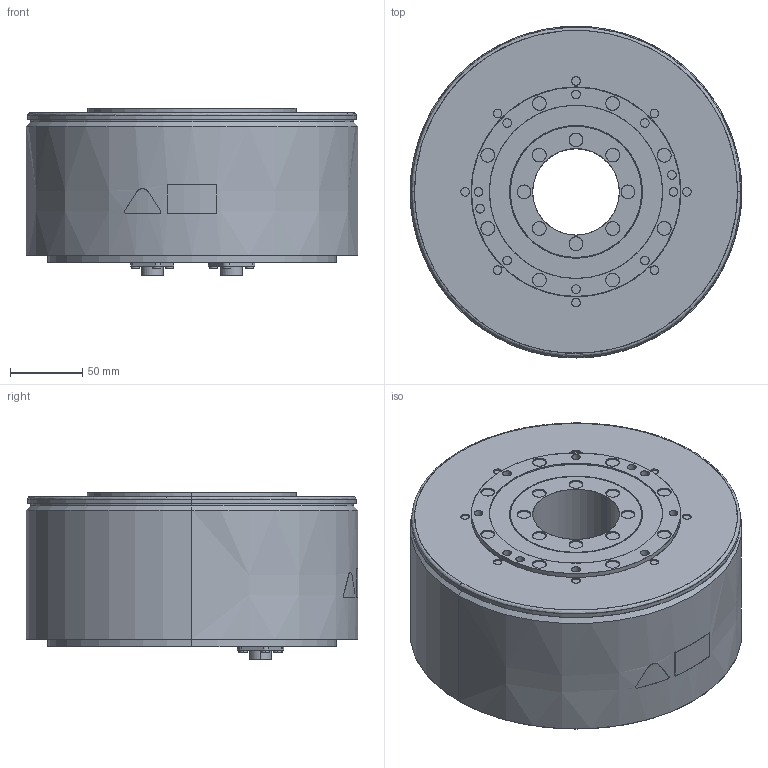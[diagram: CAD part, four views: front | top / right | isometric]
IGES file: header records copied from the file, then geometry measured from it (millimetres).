
Start section: SolidWorks IGES file using analytic representation for surfaces
Bounding box: 230 x 230.1 x 116.1 mm (x, y, z)
Surface area: 183847.6 mm2 (no closed solid volume)
Topology: 0 solids, 0 shells, 371 faces, 7757 edges, 7757 vertices
Faces by surface type: revolution 220, bspline 151
